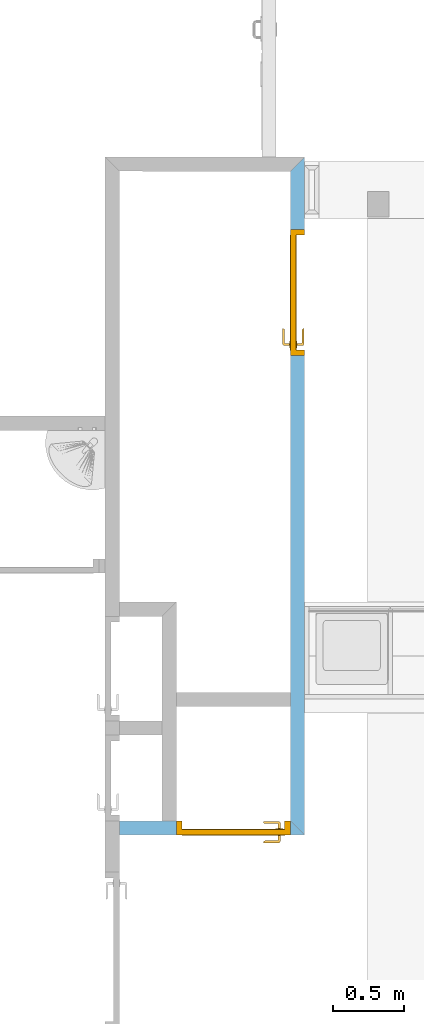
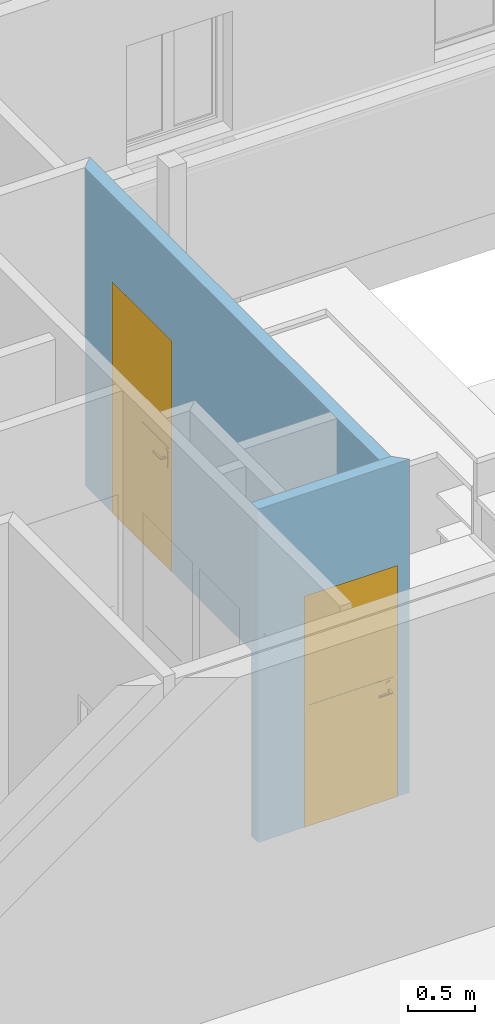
# One storey, part 23 of 34: 2 doors, 2 openings, plus 2 elements that do not belong to this part.
"""IFC2X3 building model written with IfcOpenShell, lengths in metres."""

from ifc_helpers import new_model, entity, si_unit, converted_unit, derived_unit, money_unit, direction, frame, origin_with_axes, origin_2d_with_axis, place, context, subcontext, project, spatial, polyline, rectangle, outline, extrude, faceted_brep, material, layer, layer_set, layer_usage, type_object, element, fill, save


model = new_model("IFC2X3")

# Units and contexts
model_context = context("Model", 3, precision=1e-05, world=origin_with_axes(), true_north=direction((0.0, 1.0)))
body_context = subcontext(model_context, "Body", "Model", "MODEL_VIEW")
ifc_project = project(units=[si_unit("LENGTHUNIT", "METRE"), si_unit("AREAUNIT", "SQUARE_METRE"), si_unit("VOLUMEUNIT", "CUBIC_METRE"), converted_unit("PLANEANGLEUNIT", "DEGREE", entity("IfcPlaneAngleMeasure", 0.0174532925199), si_unit("PLANEANGLEUNIT", "RADIAN"), dimensions=[0, 0, 0, 0, 0, 0, 0]), money_unit("CHF"), converted_unit("TIMEUNIT", "Year", entity("IfcTimeMeasure", 31556926.0), si_unit("TIMEUNIT", "SECOND"), dimensions=[0, 0, 1, 0, 0, 0, 0]), si_unit("MASSUNIT", "GRAM", prefix="KILO"), si_unit("THERMODYNAMICTEMPERATUREUNIT", "DEGREE_CELSIUS"), si_unit("LUMINOUSINTENSITYUNIT", "LUMEN"), si_unit("ENERGYUNIT", "JOULE", prefix="MEGA"), derived_unit("THERMALCONDUCTANCEUNIT", [(si_unit("POWERUNIT", "WATT"), 1), (si_unit("LENGTHUNIT", "METRE"), -1), (si_unit("THERMODYNAMICTEMPERATUREUNIT", "KELVIN"), -1)]), derived_unit("SPECIFICHEATCAPACITYUNIT", [(si_unit("ENERGYUNIT", "JOULE"), 1), (si_unit("MASSUNIT", "GRAM", prefix="KILO"), -1), (si_unit("THERMODYNAMICTEMPERATUREUNIT", "KELVIN"), -1)]), derived_unit("MASSDENSITYUNIT", [(si_unit("MASSUNIT", "GRAM", prefix="KILO"), 1), (si_unit("VOLUMEUNIT", "CUBIC_METRE"), -1)])], contexts=[model_context])

# Site, building, storey
site_placement = place(None, origin_with_axes())
site = spatial("IfcSite", under=ifc_project, at=site_placement, Name="Site", CompositionType="ELEMENT")
building_placement = place(site_placement, origin_with_axes())
building = spatial("IfcBuilding", under=site, at=building_placement, Name="Bâtiment", CompositionType="ELEMENT")
storey_placement = place(building_placement, origin_with_axes())
storey = spatial("IfcBuildingStorey", under=building, at=storey_placement, Name="RDC", CompositionType="ELEMENT", Elevation=-5.32907e-15)

# Wall, opening, door
ifc_material_1 = material(Name="Plâtre lissé 291446788")
ifc_layer_1 = layer(ifc_material_1, 0.015, ventilated="UNKNOWN")
ifc_material_2 = material(Name="Isolation laine de pierre 307970822")
ifc_layer_2 = layer(ifc_material_2, 0.07, ventilated="UNKNOWN")
ifc_layer_3 = layer(ifc_material_1, 0.015, ventilated="UNKNOWN")
ifc_layer_set = layer_set([ifc_layer_1, ifc_layer_2, ifc_layer_3], Name="CLOISON 10 ROUGE")
ifc_layer_usage_1 = layer_usage(ifc_layer_set, "AXIS2", "NEGATIVE", 0.0)
wall_type = type_object("IfcWallType", Name="CLOISON 10 ROUGE 100", PredefinedType="NOTDEFINED")
wall_1_placement = place(storey_placement, frame((1674.4908958, 183.86604191, 0.47), z_axis=(0.0, 0.0, 1.0), x_axis=(-1.0, 0.0, 0.0)))
wall_1 = element("IfcWallStandardCase", 1, at=wall_1_placement, inside=storey, type_object=wall_type, material=ifc_layer_usage_1, Name="Mur-010", context=body_context, shape_type="SweptSolid", body=[
    extrude(outline(polyline([(0.1, -0.1), (1.29999997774, -0.1), (1.29999997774, 0.0), (0.0, 0.0), (0.1, -0.1)])), origin_with_axes(), (0.0, 0.0, 1.0), 3.03000008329),
])
opening_1_placement = place(wall_1_placement, frame((0.499999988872, 0.0, 0.0), z_axis=(0.0, 0.0, 1.0), x_axis=(1.0, 0.0, 0.0)))
opening_1 = element("IfcOpeningElement", 2, at=opening_1_placement, cuts=wall_1, Name="Por-004", context=body_context, shape_type="SweptSolid", body=[
    extrude(rectangle(XDim=0.799999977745, YDim=2.1, at=origin_2d_with_axis()), frame((0.0, 0.1, 1.05), z_axis=(0.0, -1.0, 0.0), x_axis=(1.0, 0.0, 0.0)), (0.0, 0.0, 1.0), 0.3),
])
door_style_1 = type_object("IfcDoorStyle", Name="Porte 25", ConstructionType="NOTDEFINED", OperationType="SINGLE_SWING_RIGHT", ParameterTakesPrecedence=False, Sizeable=False)
door_1_placement = place(opening_1_placement, frame((-0.371999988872, 0.0, 0.0), z_axis=(0.0, 0.0, 1.0), x_axis=(1.0, 0.0, 0.0)))
door_1 = element("IfcDoor", 3, at=door_1_placement, inside=storey, type_object=door_style_1, Name="Por-004", OverallHeight=2.1, OverallWidth=0.8, context=body_context, shape_type="Brep", body=[
    faceted_brep([(0.012, -0.04, 0.0), (0.012, -0.04, 2.06), (0.012, -0.1, 2.06), (0.012, -0.1, 0.0), (0.0, -0.04, 2.06), (0.0, -0.04, 0.0), (0.0, 0.0, 2.06), (-0.028, 0.0, 2.06), (-0.028, -0.1, 2.06), (-0.028, -0.1, 0.0), (-0.028, 0.0, 0.0), (0.0, 0.0, 0.0)], [[[0, 1, 2, 3]], [[4, 1, 0, 5]], [[4, 6, 7, 8, 2, 1]], [[3, 2, 8, 9]], [[5, 0, 3, 9, 10, 11]], [[6, 4, 5, 11]], [[6, 11, 10, 7]], [[10, 9, 8, 7]]]),
    faceted_brep([(0.743999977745, -0.04, 2.06), (0.731999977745, -0.04, 2.06), (0.731999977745, -0.1, 2.06), (0.771999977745, -0.1, 2.06), (0.771999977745, 0.0, 2.06), (0.743999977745, 0.0, 2.06), (0.743999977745, -0.04, 0.0), (0.731999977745, -0.04, 0.0), (0.731999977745, -0.1, 0.0), (0.771999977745, -0.1, 0.0), (0.771999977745, 0.0, 0.0), (0.743999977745, 0.0, 0.0)], [[[0, 1, 2, 3, 4, 5]], [[1, 0, 6, 7]], [[1, 7, 8, 2]], [[3, 2, 8, 9]], [[4, 3, 9, 10]], [[11, 5, 4, 10]], [[0, 5, 11, 6]], [[6, 11, 10, 9, 8, 7]]]),
    faceted_brep([(0.0, 0.0, 2.072), (0.0, 0.0, 2.06), (-0.028, 0.0, 2.06), (-0.028, 0.0, 2.1), (0.771999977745, 0.0, 2.1), (0.771999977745, 0.0, 2.06), (0.743999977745, 0.0, 2.06), (0.743999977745, 0.0, 2.072), (0.0, -0.04, 2.072), (0.0, -0.04, 2.06), (0.012, -0.04, 2.06), (0.012, -0.1, 2.06), (-0.028, -0.1, 2.06), (-0.028, -0.1, 2.1), (0.771999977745, -0.1, 2.1), (0.771999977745, -0.1, 2.06), (0.743999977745, -0.04, 2.06), (0.731999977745, -0.1, 2.06), (0.731999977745, -0.04, 2.06), (0.743999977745, -0.04, 2.072)], [[[0, 1, 2, 3, 4, 5, 6, 7]], [[1, 0, 8, 9]], [[9, 10, 11, 12, 2, 1]], [[2, 12, 13, 3]], [[3, 13, 14, 4]], [[4, 14, 15, 5]], [[16, 6, 5, 15, 17, 18]], [[7, 6, 16, 19]], [[0, 7, 19, 8]], [[16, 18, 10, 9, 8, 19]], [[10, 18, 17, 11]], [[17, 15, 14, 13, 12, 11]]]),
    faceted_brep([(0.025, -0.04, 0.93), (0.0269030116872, -0.04, 0.920432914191), (0.0269030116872, -0.045, 0.920432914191), (0.025, -0.045, 0.93), (0.025, -0.04, 1.055), (0.0269030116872, -0.04, 1.06456708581), (0.0323223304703, -0.04, 1.07267766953), (0.0404329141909, -0.04, 1.07809698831), (0.05, -0.04, 1.08), (0.0595670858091, -0.04, 1.07809698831), (0.0676776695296, -0.04, 1.07267766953), (0.0730969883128, -0.04, 1.06456708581), (0.075, -0.04, 1.055), (0.075, -0.04, 0.93), (0.0730969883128, -0.04, 0.920432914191), (0.0676776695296, -0.04, 0.91232233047), (0.0595670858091, -0.04, 0.906903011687), (0.05, -0.04, 0.905), (0.0404329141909, -0.04, 0.906903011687), (0.0323223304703, -0.04, 0.91232233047), (0.0323223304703, -0.045, 0.91232233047), (0.0404329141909, -0.045, 0.906903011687), (0.05, -0.045, 0.905), (0.0595670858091, -0.045, 0.906903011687), (0.0676776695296, -0.045, 0.91232233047), (0.0730969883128, -0.045, 0.920432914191), (0.075, -0.045, 0.93), (0.075, -0.045, 1.055), (0.0730969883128, -0.045, 1.06456708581), (0.0676776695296, -0.045, 1.07267766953), (0.0595670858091, -0.045, 1.07809698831), (0.05, -0.045, 1.08), (0.0404329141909, -0.045, 1.07809698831), (0.0323223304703, -0.045, 1.07267766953), (0.0269030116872, -0.045, 1.06456708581), (0.025, -0.045, 1.055)], [[[0, 1, 2, 3]], [[0, 4, 5, 6, 7, 8, 9, 10, 11, 12, 13, 14, 15, 16, 17, 18, 19, 1]], [[1, 19, 20, 2]], [[3, 2, 20, 21, 22, 23, 24, 25, 26, 27, 28, 29, 30, 31, 32, 33, 34, 35]], [[4, 0, 3, 35]], [[5, 4, 35, 34]], [[6, 5, 34, 33]], [[7, 6, 33, 32]], [[8, 7, 32, 31]], [[9, 8, 31, 30]], [[10, 9, 30, 29]], [[11, 10, 29, 28]], [[12, 11, 28, 27]], [[13, 12, 27, 26]], [[14, 13, 26, 25]], [[15, 14, 25, 24]], [[16, 15, 24, 23]], [[17, 16, 23, 22]], [[18, 17, 22, 21]], [[19, 18, 21, 20]]]),
    faceted_brep([(0.0575, -0.045, 1.005), (0.0575, -0.075, 1.005), (0.0575, -0.075, 0.995), (0.0575, -0.045, 0.995), (0.0425, -0.045, 1.005), (0.0425, -0.082, 1.005), (0.0434895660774, -0.0869748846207, 1.005), (0.0463076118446, -0.0911923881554, 1.005), (0.0505251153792, -0.0940104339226, 1.005), (0.0555, -0.095, 1.005), (0.1625, -0.095, 1.005), (0.1625, -0.093, 1.005), (0.161510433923, -0.0880251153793, 1.005), (0.158692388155, -0.0838076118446, 1.005), (0.154474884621, -0.0809895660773, 1.005), (0.1495, -0.08, 1.005), (0.0625, -0.08, 1.005), (0.0605865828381, -0.0796193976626, 1.005), (0.058964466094, -0.0785355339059, 1.005), (0.0578806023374, -0.0769134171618, 1.005), (0.0578806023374, -0.0769134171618, 0.995), (0.058964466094, -0.0785355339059, 0.995), (0.0605865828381, -0.0796193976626, 0.995), (0.0625, -0.08, 0.995), (0.1495, -0.08, 0.995), (0.154474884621, -0.0809895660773, 0.995), (0.158692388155, -0.0838076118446, 0.995), (0.161510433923, -0.0880251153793, 0.995), (0.1625, -0.093, 0.995), (0.1625, -0.095, 0.995), (0.0555, -0.095, 0.995), (0.0505251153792, -0.0940104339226, 0.995), (0.0463076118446, -0.0911923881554, 0.995), (0.0434895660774, -0.0869748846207, 0.995), (0.0425, -0.082, 0.995), (0.0425, -0.045, 0.995)], [[[0, 1, 2, 3]], [[0, 4, 5, 6, 7, 8, 9, 10, 11, 12, 13, 14, 15, 16, 17, 18, 19, 1]], [[1, 19, 20, 2]], [[3, 2, 20, 21, 22, 23, 24, 25, 26, 27, 28, 29, 30, 31, 32, 33, 34, 35]], [[4, 0, 3, 35]], [[5, 4, 35, 34]], [[6, 5, 34, 33]], [[7, 6, 33, 32]], [[8, 7, 32, 31]], [[9, 8, 31, 30]], [[10, 9, 30, 29]], [[11, 10, 29, 28]], [[12, 11, 28, 27]], [[13, 12, 27, 26]], [[14, 13, 26, 25]], [[15, 14, 25, 24]], [[16, 15, 24, 23]], [[17, 16, 23, 22]], [[18, 17, 22, 21]], [[19, 18, 21, 20]]]),
    faceted_brep([(0.025, 0.0, 0.93), (0.025, 0.005, 0.93), (0.0269030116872, 0.005, 0.920432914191), (0.0269030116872, 0.0, 0.920432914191), (0.025, 0.0, 1.055), (0.025, 0.005, 1.055), (0.0269030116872, 0.005, 1.06456708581), (0.0323223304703, 0.005, 1.07267766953), (0.0404329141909, 0.005, 1.07809698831), (0.05, 0.005, 1.08), (0.0595670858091, 0.005, 1.07809698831), (0.0676776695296, 0.005, 1.07267766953), (0.0730969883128, 0.005, 1.06456708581), (0.075, 0.005, 1.055), (0.075, 0.005, 0.93), (0.0730969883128, 0.005, 0.920432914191), (0.0676776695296, 0.005, 0.91232233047), (0.0595670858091, 0.005, 0.906903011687), (0.05, 0.005, 0.905), (0.0404329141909, 0.005, 0.906903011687), (0.0323223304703, 0.005, 0.91232233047), (0.0323223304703, 0.0, 0.91232233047), (0.0404329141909, 0.0, 0.906903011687), (0.05, 0.0, 0.905), (0.0595670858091, 0.0, 0.906903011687), (0.0676776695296, 0.0, 0.91232233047), (0.0730969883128, 0.0, 0.920432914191), (0.075, 0.0, 0.93), (0.075, 0.0, 1.055), (0.0730969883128, 0.0, 1.06456708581), (0.0676776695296, 0.0, 1.07267766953), (0.0595670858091, 0.0, 1.07809698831), (0.05, 0.0, 1.08), (0.0404329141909, 0.0, 1.07809698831), (0.0323223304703, 0.0, 1.07267766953), (0.0269030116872, 0.0, 1.06456708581)], [[[0, 1, 2, 3]], [[4, 5, 1, 0]], [[1, 5, 6, 7, 8, 9, 10, 11, 12, 13, 14, 15, 16, 17, 18, 19, 20, 2]], [[3, 2, 20, 21]], [[0, 3, 21, 22, 23, 24, 25, 26, 27, 28, 29, 30, 31, 32, 33, 34, 35, 4]], [[35, 6, 5, 4]], [[34, 7, 6, 35]], [[33, 8, 7, 34]], [[32, 9, 8, 33]], [[31, 10, 9, 32]], [[30, 11, 10, 31]], [[29, 12, 11, 30]], [[28, 13, 12, 29]], [[27, 14, 13, 28]], [[26, 15, 14, 27]], [[25, 16, 15, 26]], [[24, 17, 16, 25]], [[23, 18, 17, 24]], [[22, 19, 18, 23]], [[21, 20, 19, 22]]]),
    faceted_brep([(0.0575, 0.005, 1.005), (0.0575, 0.005, 0.995), (0.0575, 0.035, 0.995), (0.0575, 0.035, 1.005), (0.0425, 0.005, 1.005), (0.0425, 0.005, 0.995), (0.0425, 0.042, 0.995), (0.0434895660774, 0.0469748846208, 0.995), (0.0463076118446, 0.0511923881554, 0.995), (0.0505251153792, 0.0540104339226, 0.995), (0.0555, 0.055, 0.995), (0.1625, 0.055, 0.995), (0.1625, 0.053, 0.995), (0.161510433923, 0.0480251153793, 0.995), (0.158692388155, 0.0438076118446, 0.995), (0.154474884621, 0.0409895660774, 0.995), (0.1495, 0.04, 0.995), (0.0625, 0.04, 0.995), (0.0605865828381, 0.0396193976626, 0.995), (0.058964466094, 0.0385355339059, 0.995), (0.0578806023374, 0.0369134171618, 0.995), (0.0578806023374, 0.0369134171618, 1.005), (0.058964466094, 0.0385355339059, 1.005), (0.0605865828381, 0.0396193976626, 1.005), (0.0625, 0.04, 1.005), (0.1495, 0.04, 1.005), (0.154474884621, 0.0409895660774, 1.005), (0.158692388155, 0.0438076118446, 1.005), (0.161510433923, 0.0480251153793, 1.005), (0.1625, 0.053, 1.005), (0.1625, 0.055, 1.005), (0.0555, 0.055, 1.005), (0.0505251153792, 0.0540104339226, 1.005), (0.0463076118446, 0.0511923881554, 1.005), (0.0434895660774, 0.0469748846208, 1.005), (0.0425, 0.042, 1.005)], [[[0, 1, 2, 3]], [[4, 5, 1, 0]], [[1, 5, 6, 7, 8, 9, 10, 11, 12, 13, 14, 15, 16, 17, 18, 19, 20, 2]], [[3, 2, 20, 21]], [[0, 3, 21, 22, 23, 24, 25, 26, 27, 28, 29, 30, 31, 32, 33, 34, 35, 4]], [[35, 6, 5, 4]], [[34, 7, 6, 35]], [[33, 8, 7, 34]], [[32, 9, 8, 33]], [[31, 10, 9, 32]], [[30, 11, 10, 31]], [[29, 12, 11, 30]], [[28, 13, 12, 29]], [[27, 14, 13, 28]], [[26, 15, 14, 27]], [[25, 16, 15, 26]], [[24, 17, 16, 25]], [[23, 18, 17, 24]], [[22, 19, 18, 23]], [[21, 20, 19, 22]]]),
    faceted_brep([(0.733999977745, -0.042, 0.01), (0.00999999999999, -0.042, 0.01), (0.00999999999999, -0.04, 0.01), (0.733999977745, -0.04, 0.01), (0.733999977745, -0.042, 1.1), (0.00999999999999, -0.042, 1.1), (0.00999999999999, -0.04, 1.1), (0.733999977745, -0.04, 1.1)], [[[0, 1, 2, 3]], [[0, 4, 5, 1]], [[1, 5, 6, 2]], [[3, 2, 6, 7]], [[4, 0, 3, 7]], [[5, 4, 7, 6]]]),
    faceted_brep([(0.733999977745, 0.0, 0.01), (0.00999999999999, 0.0, 0.01), (0.00999999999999, 0.002, 0.01), (0.733999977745, 0.002, 0.01), (0.733999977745, 0.0, 1.1), (0.00999999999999, 0.0, 1.1), (0.00999999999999, 0.002, 1.1), (0.733999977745, 0.002, 1.1)], [[[0, 1, 2, 3]], [[0, 4, 5, 1]], [[1, 5, 6, 2]], [[3, 2, 6, 7]], [[4, 0, 3, 7]], [[5, 4, 7, 6]]]),
    faceted_brep([(0.743999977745, 0.0, 0.0), (0.743999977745, -0.04, 0.0), (0.0, -0.04, 0.0), (0.0, 0.0, 0.0), (0.743999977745, 0.0, 2.072), (0.743999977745, -0.04, 2.072), (0.0, -0.04, 2.072), (0.0, 0.0, 2.072)], [[[0, 1, 2, 3]], [[4, 5, 1, 0]], [[1, 5, 6, 2]], [[3, 2, 6, 7]], [[0, 3, 7, 4]], [[7, 6, 5, 4]]]),
])
fill(opening_1, door_1)

ifc_layer_usage_2 = layer_usage(ifc_layer_set, "AXIS2", "POSITIVE", 0.0)
wall_2_placement = place(storey_placement, frame((1674.4908958, 183.86604191, 0.47), z_axis=(0.0, 0.0, 1.0), x_axis=(0.0, 1.0, 0.0)))
wall_2 = element("IfcWallStandardCase", 4, at=wall_2_placement, inside=storey, type_object=wall_type, material=ifc_layer_usage_2, Name="Mur-010", context=body_context, shape_type="SweptSolid", body=[
    extrude(outline(polyline([(0.0, 0.0), (4.75381220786, 0.0), (4.65390605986, 0.1), (0.1, 0.1), (0.0, 0.0)])), origin_with_axes(), (0.0, 0.0, 1.0), 2.89),
])
opening_2_placement = place(wall_2_placement, frame((3.80406419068, 0.0, 0.0), z_axis=(0.0, 0.0, 1.0), x_axis=(1.0, 0.0, 0.0)))
opening_2 = element("IfcOpeningElement", 5, at=opening_2_placement, cuts=wall_2, Name="Por-004", context=body_context, shape_type="SweptSolid", body=[
    extrude(rectangle(XDim=0.886, YDim=2.1, at=origin_2d_with_axis()), frame((0.0, -0.1, 1.05), z_axis=(0.0, 1.0, 0.0), x_axis=(1.0, 0.0, 0.0)), (0.0, 0.0, 1.0), 0.3),
])
door_style_2 = type_object("IfcDoorStyle", Name="Porte 25", ConstructionType="NOTDEFINED", OperationType="SINGLE_SWING_RIGHT", ParameterTakesPrecedence=False, Sizeable=False)
door_2_placement = place(opening_2_placement, frame((-0.415, 0.0, 0.0), z_axis=(0.0, 0.0, 1.0), x_axis=(1.0, 0.0, 0.0)))
door_2 = element("IfcDoor", 6, at=door_2_placement, inside=storey, type_object=door_style_2, Name="Por-004", OverallHeight=2.1, OverallWidth=0.886, context=body_context, shape_type="Brep", body=[
    faceted_brep([(0.012, 0.06, 0.0), (0.012, 0.06, 2.06), (0.012, 0.0, 2.06), (0.012, 0.0, 0.0), (0.0, 0.06, 2.06), (0.0, 0.06, 0.0), (0.0, 0.1, 2.06), (-0.028, 0.1, 2.06), (-0.028, 0.0, 2.06), (-0.028, 0.0, 0.0), (-0.028, 0.1, 0.0), (0.0, 0.1, 0.0)], [[[0, 1, 2, 3]], [[4, 1, 0, 5]], [[4, 6, 7, 8, 2, 1]], [[3, 2, 8, 9]], [[5, 0, 3, 9, 10, 11]], [[6, 4, 5, 11]], [[6, 11, 10, 7]], [[10, 9, 8, 7]]]),
    faceted_brep([(0.83, 0.06, 2.06), (0.818, 0.06, 2.06), (0.818, 0.0, 2.06), (0.858, 0.0, 2.06), (0.858, 0.1, 2.06), (0.83, 0.1, 2.06), (0.83, 0.06, 0.0), (0.818, 0.06, 0.0), (0.818, 0.0, 0.0), (0.858, 0.0, 0.0), (0.858, 0.1, 0.0), (0.83, 0.1, 0.0)], [[[0, 1, 2, 3, 4, 5]], [[1, 0, 6, 7]], [[1, 7, 8, 2]], [[3, 2, 8, 9]], [[4, 3, 9, 10]], [[11, 5, 4, 10]], [[0, 5, 11, 6]], [[6, 11, 10, 9, 8, 7]]]),
    faceted_brep([(0.0, 0.1, 2.072), (0.0, 0.1, 2.06), (-0.028, 0.1, 2.06), (-0.028, 0.1, 2.1), (0.858, 0.1, 2.1), (0.858, 0.1, 2.06), (0.83, 0.1, 2.06), (0.83, 0.1, 2.072), (0.0, 0.06, 2.072), (0.0, 0.06, 2.06), (0.012, 0.06, 2.06), (0.012, 0.0, 2.06), (-0.028, 0.0, 2.06), (-0.028, 0.0, 2.1), (0.858, 0.0, 2.1), (0.858, 0.0, 2.06), (0.83, 0.06, 2.06), (0.818, 0.0, 2.06), (0.818, 0.06, 2.06), (0.83, 0.06, 2.072)], [[[0, 1, 2, 3, 4, 5, 6, 7]], [[1, 0, 8, 9]], [[9, 10, 11, 12, 2, 1]], [[2, 12, 13, 3]], [[3, 13, 14, 4]], [[4, 14, 15, 5]], [[16, 6, 5, 15, 17, 18]], [[7, 6, 16, 19]], [[0, 7, 19, 8]], [[16, 18, 10, 9, 8, 19]], [[10, 18, 17, 11]], [[17, 15, 14, 13, 12, 11]]]),
    faceted_brep([(0.025, 0.06, 0.93), (0.0269030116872, 0.06, 0.920432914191), (0.0269030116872, 0.055, 0.920432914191), (0.025, 0.055, 0.93), (0.025, 0.06, 1.055), (0.0269030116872, 0.06, 1.06456708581), (0.0323223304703, 0.06, 1.07267766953), (0.0404329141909, 0.06, 1.07809698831), (0.05, 0.06, 1.08), (0.0595670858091, 0.06, 1.07809698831), (0.0676776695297, 0.06, 1.07267766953), (0.0730969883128, 0.06, 1.06456708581), (0.075, 0.06, 1.055), (0.075, 0.06, 0.93), (0.0730969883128, 0.06, 0.920432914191), (0.0676776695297, 0.06, 0.91232233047), (0.0595670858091, 0.06, 0.906903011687), (0.05, 0.06, 0.905), (0.0404329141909, 0.06, 0.906903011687), (0.0323223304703, 0.06, 0.91232233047), (0.0323223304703, 0.055, 0.91232233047), (0.0404329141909, 0.055, 0.906903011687), (0.05, 0.055, 0.905), (0.0595670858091, 0.055, 0.906903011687), (0.0676776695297, 0.055, 0.91232233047), (0.0730969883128, 0.055, 0.920432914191), (0.075, 0.055, 0.93), (0.075, 0.055, 1.055), (0.0730969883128, 0.055, 1.06456708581), (0.0676776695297, 0.055, 1.07267766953), (0.0595670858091, 0.055, 1.07809698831), (0.05, 0.055, 1.08), (0.0404329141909, 0.055, 1.07809698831), (0.0323223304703, 0.055, 1.07267766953), (0.0269030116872, 0.055, 1.06456708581), (0.025, 0.055, 1.055)], [[[0, 1, 2, 3]], [[0, 4, 5, 6, 7, 8, 9, 10, 11, 12, 13, 14, 15, 16, 17, 18, 19, 1]], [[1, 19, 20, 2]], [[3, 2, 20, 21, 22, 23, 24, 25, 26, 27, 28, 29, 30, 31, 32, 33, 34, 35]], [[4, 0, 3, 35]], [[5, 4, 35, 34]], [[6, 5, 34, 33]], [[7, 6, 33, 32]], [[8, 7, 32, 31]], [[9, 8, 31, 30]], [[10, 9, 30, 29]], [[11, 10, 29, 28]], [[12, 11, 28, 27]], [[13, 12, 27, 26]], [[14, 13, 26, 25]], [[15, 14, 25, 24]], [[16, 15, 24, 23]], [[17, 16, 23, 22]], [[18, 17, 22, 21]], [[19, 18, 21, 20]]]),
    faceted_brep([(0.0575, 0.055, 1.005), (0.0575, 0.025, 1.005), (0.0575, 0.025, 0.995), (0.0575, 0.055, 0.995), (0.0425, 0.055, 1.005), (0.0425, 0.018, 1.005), (0.0434895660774, 0.0130251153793, 1.005), (0.0463076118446, 0.00880761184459, 1.005), (0.0505251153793, 0.0059895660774, 1.005), (0.0555, 0.005, 1.005), (0.1625, 0.005, 1.005), (0.1625, 0.00700000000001, 1.005), (0.161510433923, 0.0119748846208, 1.005), (0.158692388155, 0.0161923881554, 1.005), (0.154474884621, 0.0190104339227, 1.005), (0.1495, 0.02, 1.005), (0.0625, 0.02, 1.005), (0.0605865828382, 0.0203806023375, 1.005), (0.0589644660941, 0.0214644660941, 1.005), (0.0578806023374, 0.0230865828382, 1.005), (0.0578806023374, 0.0230865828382, 0.995), (0.0589644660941, 0.0214644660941, 0.995), (0.0605865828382, 0.0203806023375, 0.995), (0.0625, 0.02, 0.995), (0.1495, 0.02, 0.995), (0.154474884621, 0.0190104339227, 0.995), (0.158692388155, 0.0161923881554, 0.995), (0.161510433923, 0.0119748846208, 0.995), (0.1625, 0.00700000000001, 0.995), (0.1625, 0.005, 0.995), (0.0555, 0.005, 0.995), (0.0505251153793, 0.0059895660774, 0.995), (0.0463076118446, 0.00880761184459, 0.995), (0.0434895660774, 0.0130251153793, 0.995), (0.0425, 0.018, 0.995), (0.0425, 0.055, 0.995)], [[[0, 1, 2, 3]], [[0, 4, 5, 6, 7, 8, 9, 10, 11, 12, 13, 14, 15, 16, 17, 18, 19, 1]], [[1, 19, 20, 2]], [[3, 2, 20, 21, 22, 23, 24, 25, 26, 27, 28, 29, 30, 31, 32, 33, 34, 35]], [[4, 0, 3, 35]], [[5, 4, 35, 34]], [[6, 5, 34, 33]], [[7, 6, 33, 32]], [[8, 7, 32, 31]], [[9, 8, 31, 30]], [[10, 9, 30, 29]], [[11, 10, 29, 28]], [[12, 11, 28, 27]], [[13, 12, 27, 26]], [[14, 13, 26, 25]], [[15, 14, 25, 24]], [[16, 15, 24, 23]], [[17, 16, 23, 22]], [[18, 17, 22, 21]], [[19, 18, 21, 20]]]),
    faceted_brep([(0.025, 0.1, 0.93), (0.025, 0.105, 0.93), (0.0269030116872, 0.105, 0.920432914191), (0.0269030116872, 0.1, 0.920432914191), (0.025, 0.1, 1.055), (0.025, 0.105, 1.055), (0.0269030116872, 0.105, 1.06456708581), (0.0323223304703, 0.105, 1.07267766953), (0.0404329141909, 0.105, 1.07809698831), (0.05, 0.105, 1.08), (0.0595670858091, 0.105, 1.07809698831), (0.0676776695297, 0.105, 1.07267766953), (0.0730969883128, 0.105, 1.06456708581), (0.075, 0.105, 1.055), (0.075, 0.105, 0.93), (0.0730969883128, 0.105, 0.920432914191), (0.0676776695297, 0.105, 0.91232233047), (0.0595670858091, 0.105, 0.906903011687), (0.05, 0.105, 0.905), (0.0404329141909, 0.105, 0.906903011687), (0.0323223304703, 0.105, 0.91232233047), (0.0323223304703, 0.1, 0.91232233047), (0.0404329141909, 0.1, 0.906903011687), (0.05, 0.1, 0.905), (0.0595670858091, 0.1, 0.906903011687), (0.0676776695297, 0.1, 0.91232233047), (0.0730969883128, 0.1, 0.920432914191), (0.075, 0.1, 0.93), (0.075, 0.1, 1.055), (0.0730969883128, 0.1, 1.06456708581), (0.0676776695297, 0.1, 1.07267766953), (0.0595670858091, 0.1, 1.07809698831), (0.05, 0.1, 1.08), (0.0404329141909, 0.1, 1.07809698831), (0.0323223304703, 0.1, 1.07267766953), (0.0269030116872, 0.1, 1.06456708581)], [[[0, 1, 2, 3]], [[4, 5, 1, 0]], [[1, 5, 6, 7, 8, 9, 10, 11, 12, 13, 14, 15, 16, 17, 18, 19, 20, 2]], [[3, 2, 20, 21]], [[0, 3, 21, 22, 23, 24, 25, 26, 27, 28, 29, 30, 31, 32, 33, 34, 35, 4]], [[35, 6, 5, 4]], [[34, 7, 6, 35]], [[33, 8, 7, 34]], [[32, 9, 8, 33]], [[31, 10, 9, 32]], [[30, 11, 10, 31]], [[29, 12, 11, 30]], [[28, 13, 12, 29]], [[27, 14, 13, 28]], [[26, 15, 14, 27]], [[25, 16, 15, 26]], [[24, 17, 16, 25]], [[23, 18, 17, 24]], [[22, 19, 18, 23]], [[21, 20, 19, 22]]]),
    faceted_brep([(0.0575, 0.105, 1.005), (0.0575, 0.105, 0.995), (0.0575, 0.135, 0.995), (0.0575, 0.135, 1.005), (0.0425, 0.105, 1.005), (0.0425, 0.105, 0.995), (0.0425, 0.142, 0.995), (0.0434895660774, 0.146974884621, 0.995), (0.0463076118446, 0.151192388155, 0.995), (0.0505251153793, 0.154010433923, 0.995), (0.0555, 0.155, 0.995), (0.1625, 0.155, 0.995), (0.1625, 0.153, 0.995), (0.161510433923, 0.148025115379, 0.995), (0.158692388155, 0.143807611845, 0.995), (0.154474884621, 0.140989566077, 0.995), (0.1495, 0.14, 0.995), (0.0625, 0.14, 0.995), (0.0605865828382, 0.139619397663, 0.995), (0.0589644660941, 0.138535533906, 0.995), (0.0578806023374, 0.136913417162, 0.995), (0.0578806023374, 0.136913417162, 1.005), (0.0589644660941, 0.138535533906, 1.005), (0.0605865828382, 0.139619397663, 1.005), (0.0625, 0.14, 1.005), (0.1495, 0.14, 1.005), (0.154474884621, 0.140989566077, 1.005), (0.158692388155, 0.143807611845, 1.005), (0.161510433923, 0.148025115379, 1.005), (0.1625, 0.153, 1.005), (0.1625, 0.155, 1.005), (0.0555, 0.155, 1.005), (0.0505251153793, 0.154010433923, 1.005), (0.0463076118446, 0.151192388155, 1.005), (0.0434895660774, 0.146974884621, 1.005), (0.0425, 0.142, 1.005)], [[[0, 1, 2, 3]], [[4, 5, 1, 0]], [[1, 5, 6, 7, 8, 9, 10, 11, 12, 13, 14, 15, 16, 17, 18, 19, 20, 2]], [[3, 2, 20, 21]], [[0, 3, 21, 22, 23, 24, 25, 26, 27, 28, 29, 30, 31, 32, 33, 34, 35, 4]], [[35, 6, 5, 4]], [[34, 7, 6, 35]], [[33, 8, 7, 34]], [[32, 9, 8, 33]], [[31, 10, 9, 32]], [[30, 11, 10, 31]], [[29, 12, 11, 30]], [[28, 13, 12, 29]], [[27, 14, 13, 28]], [[26, 15, 14, 27]], [[25, 16, 15, 26]], [[24, 17, 16, 25]], [[23, 18, 17, 24]], [[22, 19, 18, 23]], [[21, 20, 19, 22]]]),
    faceted_brep([(0.82, 0.102, 0.01), (0.82, 0.1, 0.01), (0.01, 0.1, 0.01), (0.01, 0.102, 0.01), (0.82, 0.102, 1.1), (0.82, 0.1, 1.1), (0.01, 0.1, 1.1), (0.01, 0.102, 1.1)], [[[0, 1, 2, 3]], [[4, 5, 1, 0]], [[1, 5, 6, 2]], [[3, 2, 6, 7]], [[0, 3, 7, 4]], [[7, 6, 5, 4]]]),
    faceted_brep([(0.82, 0.06, 0.01), (0.82, 0.058, 0.01), (0.01, 0.058, 0.01), (0.01, 0.06, 0.01), (0.82, 0.06, 1.1), (0.82, 0.058, 1.1), (0.01, 0.058, 1.1), (0.01, 0.06, 1.1)], [[[0, 1, 2, 3]], [[4, 5, 1, 0]], [[1, 5, 6, 2]], [[3, 2, 6, 7]], [[0, 3, 7, 4]], [[7, 6, 5, 4]]]),
    faceted_brep([(0.83, 0.1, 0.0), (0.83, 0.06, 0.0), (0.0, 0.06, 0.0), (0.0, 0.1, 0.0), (0.83, 0.1, 2.072), (0.83, 0.06, 2.072), (0.0, 0.06, 2.072), (0.0, 0.1, 2.072)], [[[0, 1, 2, 3]], [[4, 5, 1, 0]], [[1, 5, 6, 2]], [[3, 2, 6, 7]], [[0, 3, 7, 4]], [[7, 6, 5, 4]]]),
])
fill(opening_2, door_2)

save(model, "model.ifc")
